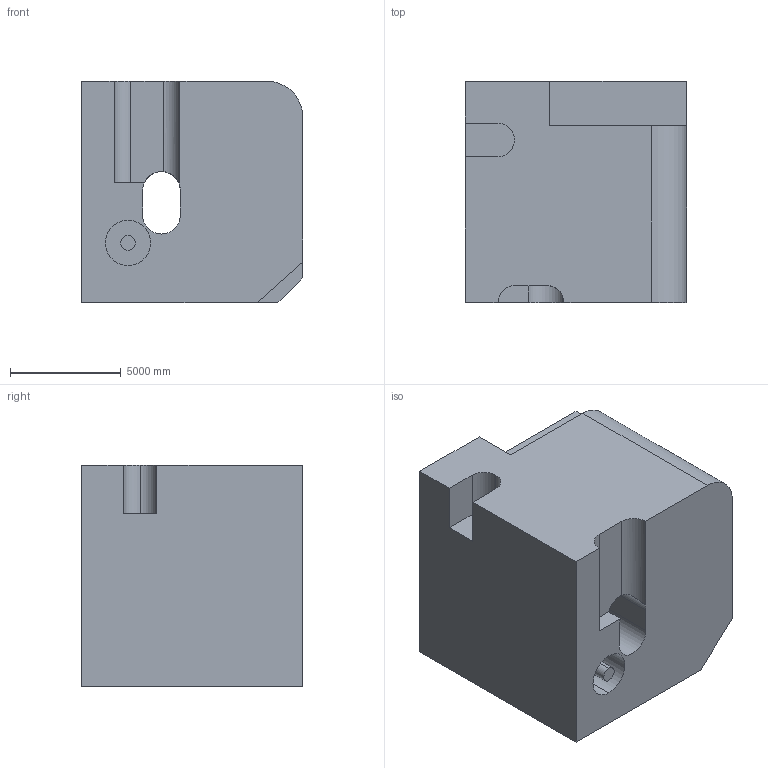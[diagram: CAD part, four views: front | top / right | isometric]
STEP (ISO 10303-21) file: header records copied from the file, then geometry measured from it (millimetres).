
FILE_DESCRIPTION (( 'STEP AP203' ), '1' );
FILE_NAME ('1878.STEP', '2022-08-25T16:18:11', ( 'user' ), ( '' ), 'SwSTEP 2.0', 'SolidWorks 2021', '' );
FILE_SCHEMA (( 'CONFIG_CONTROL_DESIGN' ));
Length unit declared in the file: centimetre
Products named in the file (1): 1878
Bounding box: 10000 x 10000 x 10000 mm (x, y, z)
Volume: 878511621126.9 mm3; surface area: 704783212.8 mm2
Topology: 1 solids, 1 shells, 39 faces, 108 edges, 72 vertices
Faces by surface type: plane 26, cylinder 13
Entity records: 1374 total; most frequent: CARTESIAN_POINT 265, ORIENTED_EDGE 216, DIRECTION 215, EDGE_CURVE 108, LINE 79, VECTOR 79, VERTEX_POINT 72, AXIS2_PLACEMENT_3D 68
